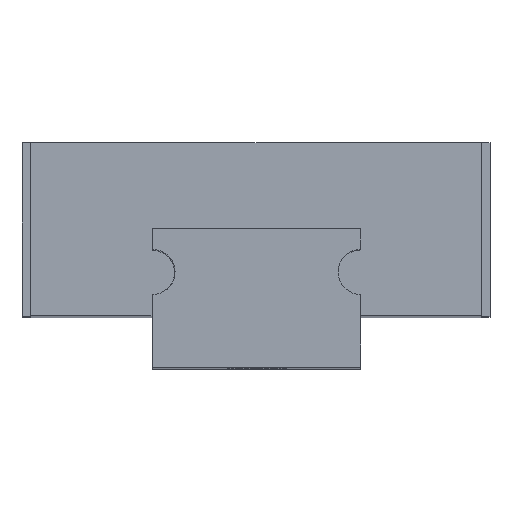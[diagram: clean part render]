
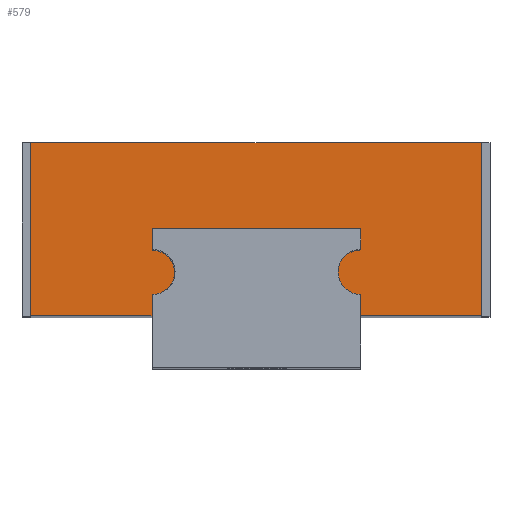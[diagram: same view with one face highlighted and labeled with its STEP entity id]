
A CAD part, top view. The second image highlights one B-rep face of the part: STEP entity #579.
In plain terms, the highlighted planar face has unit normal (0, 0, 1).
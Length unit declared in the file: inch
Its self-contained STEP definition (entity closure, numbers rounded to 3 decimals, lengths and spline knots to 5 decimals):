
#17 = CARTESIAN_POINT ( 'NONE',  ( 0.29528, 0.19685, 0.27559 ) ) ;
#25 = CARTESIAN_POINT ( 'NONE',  ( 0.29528, 0.09843, 0.27559 ) ) ;
#55 = ORIENTED_EDGE ( 'NONE', *, *, #327, .T. ) ;
#64 = DIRECTION ( 'NONE',  ( 1., 0., 0. ) ) ;
#65 = LINE ( 'NONE', #387, #2240 ) ;
#80 = VECTOR ( 'NONE', #392, 39.37008 ) ;
#94 = LINE ( 'NONE', #742, #675 ) ;
#146 = VECTOR ( 'NONE', #524, 39.37008 ) ;
#156 = CARTESIAN_POINT ( 'NONE',  ( 0.76772, 0.14961, 0.27559 ) ) ;
#162 = VERTEX_POINT ( 'NONE', #1709 ) ;
#177 = VECTOR ( 'NONE', #2445, 39.37008 ) ;
#269 = CARTESIAN_POINT ( 'NONE',  ( 0.29528, 0.14961, 0.27559 ) ) ;
#281 = ORIENTED_EDGE ( 'NONE', *, *, #883, .T. ) ;
#308 = CARTESIAN_POINT ( 'NONE',  ( 0.29528, 0., 0.27559 ) ) ;
#327 = EDGE_CURVE ( 'NONE', #162, #1542, #842, .T. ) ;
#349 = DIRECTION ( 'NONE',  ( 0., -1., 0. ) ) ;
#387 = CARTESIAN_POINT ( 'NONE',  ( 0.29528, 0., 0.27559 ) ) ;
#391 = CARTESIAN_POINT ( 'NONE',  ( 0.76772, 0.19685, 0.27559 ) ) ;
#392 = DIRECTION ( 'NONE',  ( -1., 0., 0. ) ) ;
#411 = LINE ( 'NONE', #1109, #177 ) ;
#417 = LINE ( 'NONE', #1879, #1824 ) ;
#442 = EDGE_CURVE ( 'NONE', #1825, #1591, #1125, .T. ) ;
#450 = ORIENTED_EDGE ( 'NONE', *, *, #1761, .T. ) ;
#468 = VECTOR ( 'NONE', #1566, 39.37008 ) ;
#524 = DIRECTION ( 'NONE',  ( 1., 0., 0. ) ) ;
#579 = ADVANCED_FACE ( 'NONE', ( #2084 ), #1103, .T. ) ;
#605 = DIRECTION ( 'NONE',  ( 1., 0., 0. ) ) ;
#645 = LINE ( 'NONE', #1265, #146 ) ;
#659 = AXIS2_PLACEMENT_3D ( 'NONE', #25, #1698, #957 ) ;
#674 = CARTESIAN_POINT ( 'NONE',  ( 0.01969, 0., 0.27559 ) ) ;
#675 = VECTOR ( 'NONE', #962, 39.37008 ) ;
#685 = EDGE_CURVE ( 'NONE', #1317, #2262, #65, .T. ) ;
#688 = VERTEX_POINT ( 'NONE', #1117 ) ;
#695 = ORIENTED_EDGE ( 'NONE', *, *, #1197, .T. ) ;
#733 = ORIENTED_EDGE ( 'NONE', *, *, #736, .F. ) ;
#736 = EDGE_CURVE ( 'NONE', #162, #879, #1882, .T. ) ;
#742 = CARTESIAN_POINT ( 'NONE',  ( 0., 0., 0.27559 ) ) ;
#813 = CARTESIAN_POINT ( 'NONE',  ( 0.76772, 0.09843, 0.27559 ) ) ;
#825 = VERTEX_POINT ( 'NONE', #391 ) ;
#842 = LINE ( 'NONE', #1933, #80 ) ;
#872 = VECTOR ( 'NONE', #1420, 39.37008 ) ;
#879 = VERTEX_POINT ( 'NONE', #1083 ) ;
#883 = EDGE_CURVE ( 'NONE', #1591, #825, #645, .T. ) ;
#892 = ORIENTED_EDGE ( 'NONE', *, *, #442, .T. ) ;
#899 = DIRECTION ( 'NONE',  ( 1., 0., 0. ) ) ;
#937 = EDGE_LOOP ( 'NONE', ( #733, #55, #2245, #1551, #2364, #450, #1052, #892, #281, #1027, #695, #1393, #1477 ) ) ;
#957 = DIRECTION ( 'NONE',  ( 1., 0., 0. ) ) ;
#962 = DIRECTION ( 'NONE',  ( 1., 0., 0. ) ) ;
#1027 = ORIENTED_EDGE ( 'NONE', *, *, #1513, .T. ) ;
#1052 = ORIENTED_EDGE ( 'NONE', *, *, #2335, .T. ) ;
#1083 = CARTESIAN_POINT ( 'NONE',  ( 1.04331, 0., 0.27559 ) ) ;
#1103 = PLANE ( 'NONE',  #2054 ) ;
#1109 = CARTESIAN_POINT ( 'NONE',  ( 0.76772, 0., 0.27559 ) ) ;
#1115 = DIRECTION ( 'NONE',  ( 1., 0., 0. ) ) ;
#1117 = CARTESIAN_POINT ( 'NONE',  ( 0.34646, 0.09843, 0.27559 ) ) ;
#1125 = LINE ( 'NONE', #1575, #2198 ) ;
#1194 = CARTESIAN_POINT ( 'NONE',  ( 0.76772, 0., 0.27559 ) ) ;
#1197 = EDGE_CURVE ( 'NONE', #2259, #1500, #1839, .T. ) ;
#1265 = CARTESIAN_POINT ( 'NONE',  ( 0., 0.19685, 0.27559 ) ) ;
#1317 = VERTEX_POINT ( 'NONE', #308 ) ;
#1334 = CARTESIAN_POINT ( 'NONE',  ( 0.01969, 0.3937, 0.27559 ) ) ;
#1336 = DIRECTION ( 'NONE',  ( 0., 1., 0. ) ) ;
#1383 = LINE ( 'NONE', #1789, #872 ) ;
#1393 = ORIENTED_EDGE ( 'NONE', *, *, #1633, .T. ) ;
#1410 = VERTEX_POINT ( 'NONE', #1859 ) ;
#1420 = DIRECTION ( 'NONE',  ( 0., -1., 0. ) ) ;
#1457 = CARTESIAN_POINT ( 'NONE',  ( 0., 0., 0.27559 ) ) ;
#1477 = ORIENTED_EDGE ( 'NONE', *, *, #1563, .T. ) ;
#1490 = LINE ( 'NONE', #1194, #468 ) ;
#1500 = VERTEX_POINT ( 'NONE', #2241 ) ;
#1513 = EDGE_CURVE ( 'NONE', #825, #2259, #411, .T. ) ;
#1542 = VERTEX_POINT ( 'NONE', #1334 ) ;
#1551 = ORIENTED_EDGE ( 'NONE', *, *, #2401, .T. ) ;
#1563 = EDGE_CURVE ( 'NONE', #1410, #879, #94, .T. ) ;
#1566 = DIRECTION ( 'NONE',  ( 0., -1., 0. ) ) ;
#1575 = CARTESIAN_POINT ( 'NONE',  ( 0.29528, 0., 0.27559 ) ) ;
#1591 = VERTEX_POINT ( 'NONE', #17 ) ;
#1633 = EDGE_CURVE ( 'NONE', #1500, #1410, #1490, .T. ) ;
#1698 = DIRECTION ( 'NONE',  ( 0., 0., 1. ) ) ;
#1709 = CARTESIAN_POINT ( 'NONE',  ( 1.04331, 0.3937, 0.27559 ) ) ;
#1750 = CIRCLE ( 'NONE', #1991, 0.05118 ) ;
#1761 = EDGE_CURVE ( 'NONE', #2262, #688, #1750, .T. ) ;
#1789 = CARTESIAN_POINT ( 'NONE',  ( 0.01969, 0., 0.27559 ) ) ;
#1798 = VERTEX_POINT ( 'NONE', #674 ) ;
#1824 = VECTOR ( 'NONE', #1115, 39.37008 ) ;
#1825 = VERTEX_POINT ( 'NONE', #269 ) ;
#1839 = CIRCLE ( 'NONE', #2393, 0.05118 ) ;
#1859 = CARTESIAN_POINT ( 'NONE',  ( 0.76772, 0., 0.27559 ) ) ;
#1879 = CARTESIAN_POINT ( 'NONE',  ( 0., 0., 0.27559 ) ) ;
#1882 = LINE ( 'NONE', #2286, #2209 ) ;
#1933 = CARTESIAN_POINT ( 'NONE',  ( 0., 0.3937, 0.27559 ) ) ;
#1991 = AXIS2_PLACEMENT_3D ( 'NONE', #2165, #2362, #605 ) ;
#2054 = AXIS2_PLACEMENT_3D ( 'NONE', #1457, #2420, #899 ) ;
#2061 = CARTESIAN_POINT ( 'NONE',  ( 0.29528, 0.04724, 0.27559 ) ) ;
#2084 = FACE_OUTER_BOUND ( 'NONE', #937, .T. ) ;
#2150 = DIRECTION ( 'NONE',  ( 0., 1., 0. ) ) ;
#2165 = CARTESIAN_POINT ( 'NONE',  ( 0.29528, 0.09843, 0.27559 ) ) ;
#2198 = VECTOR ( 'NONE', #2150, 39.37008 ) ;
#2209 = VECTOR ( 'NONE', #349, 39.37008 ) ;
#2240 = VECTOR ( 'NONE', #1336, 39.37008 ) ;
#2241 = CARTESIAN_POINT ( 'NONE',  ( 0.76772, 0.04724, 0.27559 ) ) ;
#2245 = ORIENTED_EDGE ( 'NONE', *, *, #2449, .T. ) ;
#2259 = VERTEX_POINT ( 'NONE', #156 ) ;
#2262 = VERTEX_POINT ( 'NONE', #2061 ) ;
#2286 = CARTESIAN_POINT ( 'NONE',  ( 1.04331, 0., 0.27559 ) ) ;
#2309 = CIRCLE ( 'NONE', #659, 0.05118 ) ;
#2335 = EDGE_CURVE ( 'NONE', #688, #1825, #2309, .T. ) ;
#2345 = DIRECTION ( 'NONE',  ( 0., 0., 1. ) ) ;
#2362 = DIRECTION ( 'NONE',  ( 0., 0., 1. ) ) ;
#2364 = ORIENTED_EDGE ( 'NONE', *, *, #685, .T. ) ;
#2393 = AXIS2_PLACEMENT_3D ( 'NONE', #813, #2345, #64 ) ;
#2401 = EDGE_CURVE ( 'NONE', #1798, #1317, #417, .T. ) ;
#2420 = DIRECTION ( 'NONE',  ( 0., 0., 1. ) ) ;
#2445 = DIRECTION ( 'NONE',  ( 0., -1., 0. ) ) ;
#2449 = EDGE_CURVE ( 'NONE', #1542, #1798, #1383, .T. ) ;
